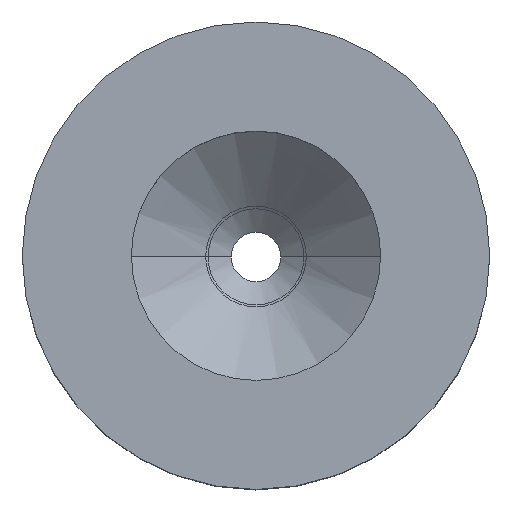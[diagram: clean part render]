
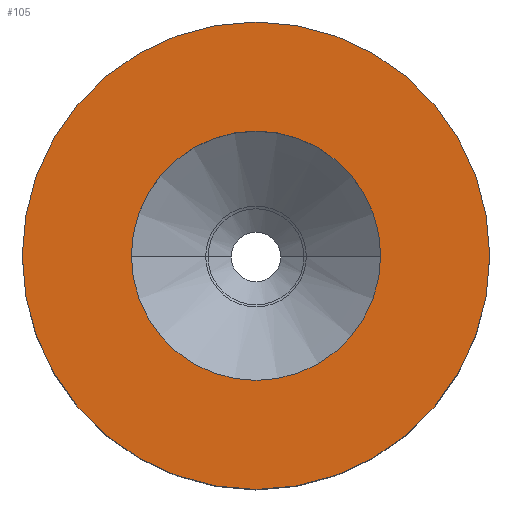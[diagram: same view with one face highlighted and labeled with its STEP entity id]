
A CAD part, top view. The second image highlights one B-rep face of the part: STEP entity #105.
In plain terms, the highlighted planar face has unit normal (0, 0, 1).
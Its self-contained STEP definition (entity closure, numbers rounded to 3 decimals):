
#61 = PLANE ( 'NONE',  #85 ) ;
#74 = EDGE_LOOP ( 'NONE', ( #808, #918 ) ) ;
#81 = DIRECTION ( 'NONE',  ( -1., 0., 0. ) ) ;
#85 = AXIS2_PLACEMENT_3D ( 'NONE', #143, #314, #81 ) ;
#105 = ADVANCED_FACE ( 'NONE', ( #241, #147 ), #61, .F. ) ;
#143 = CARTESIAN_POINT ( 'NONE',  ( 0., 0., 0. ) ) ;
#147 = FACE_OUTER_BOUND ( 'NONE', #696, .T. ) ;
#241 = FACE_BOUND ( 'NONE', #74, .T. ) ;
#305 = AXIS2_PLACEMENT_3D ( 'NONE', #749, #606, #953 ) ;
#314 = DIRECTION ( 'NONE',  ( 0., 0., -1. ) ) ;
#324 = AXIS2_PLACEMENT_3D ( 'NONE', #552, #353, #536 ) ;
#353 = DIRECTION ( 'NONE',  ( 0., 0., 1. ) ) ;
#368 = DIRECTION ( 'NONE',  ( 1., 0., 0. ) ) ;
#370 = DIRECTION ( 'NONE',  ( 0., 0., 1. ) ) ;
#375 = CARTESIAN_POINT ( 'NONE',  ( 0., 0., 0. ) ) ;
#434 = AXIS2_PLACEMENT_3D ( 'NONE', #492, #480, #475 ) ;
#435 = VERTEX_POINT ( 'NONE', #795 ) ;
#465 = ORIENTED_EDGE ( 'NONE', *, *, #907, .T. ) ;
#475 = DIRECTION ( 'NONE',  ( 1., 0., 0. ) ) ;
#480 = DIRECTION ( 'NONE',  ( 0., 0., 1. ) ) ;
#492 = CARTESIAN_POINT ( 'NONE',  ( 0., 0., 0. ) ) ;
#536 = DIRECTION ( 'NONE',  ( 1., 0., 0. ) ) ;
#537 = AXIS2_PLACEMENT_3D ( 'NONE', #375, #370, #368 ) ;
#552 = CARTESIAN_POINT ( 'NONE',  ( 0., 0., 0. ) ) ;
#568 = CIRCLE ( 'NONE', #434, 4. ) ;
#594 = CIRCLE ( 'NONE', #324, 7.5 ) ;
#600 = CIRCLE ( 'NONE', #537, 4. ) ;
#606 = DIRECTION ( 'NONE',  ( 0., 0., 1. ) ) ;
#617 = VERTEX_POINT ( 'NONE', #774 ) ;
#620 = ORIENTED_EDGE ( 'NONE', *, *, #659, .T. ) ;
#659 = EDGE_CURVE ( 'NONE', #617, #706, #594, .T. ) ;
#673 = VERTEX_POINT ( 'NONE', #764 ) ;
#678 = EDGE_CURVE ( 'NONE', #435, #673, #568, .T. ) ;
#694 = EDGE_CURVE ( 'NONE', #673, #435, #600, .T. ) ;
#696 = EDGE_LOOP ( 'NONE', ( #620, #465 ) ) ;
#706 = VERTEX_POINT ( 'NONE', #741 ) ;
#727 = CIRCLE ( 'NONE', #305, 7.5 ) ;
#741 = CARTESIAN_POINT ( 'NONE',  ( -7.5, 0., 0. ) ) ;
#749 = CARTESIAN_POINT ( 'NONE',  ( 0., 0., 0. ) ) ;
#764 = CARTESIAN_POINT ( 'NONE',  ( 4., 0., 0. ) ) ;
#774 = CARTESIAN_POINT ( 'NONE',  ( 7.5, 0., 0. ) ) ;
#795 = CARTESIAN_POINT ( 'NONE',  ( -4., 0., 0. ) ) ;
#808 = ORIENTED_EDGE ( 'NONE', *, *, #694, .F. ) ;
#907 = EDGE_CURVE ( 'NONE', #706, #617, #727, .T. ) ;
#918 = ORIENTED_EDGE ( 'NONE', *, *, #678, .F. ) ;
#953 = DIRECTION ( 'NONE',  ( 1., 0., 0. ) ) ;
